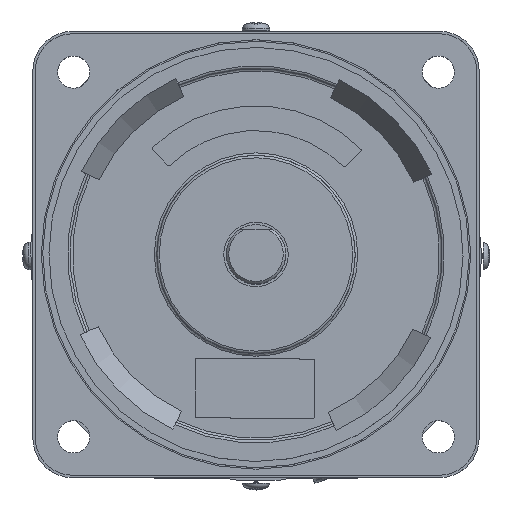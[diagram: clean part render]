
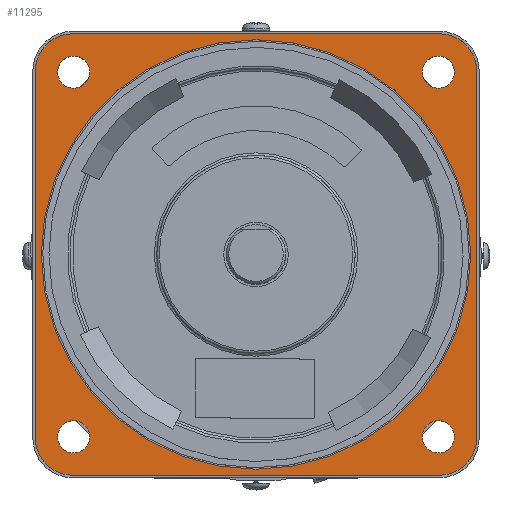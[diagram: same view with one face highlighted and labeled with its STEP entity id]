
A CAD part, top view. The second image highlights one B-rep face of the part: STEP entity #11295.
In plain terms, the highlighted planar face has unit normal (0, 0, 1).
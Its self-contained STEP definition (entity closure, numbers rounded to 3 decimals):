
#588=FACE_BOUND('',#1620,.T.);
#589=FACE_BOUND('',#1621,.T.);
#590=FACE_BOUND('',#1622,.T.);
#591=FACE_BOUND('',#1623,.T.);
#592=FACE_BOUND('',#1624,.T.);
#714=PLANE('',#11973);
#972=FACE_OUTER_BOUND('',#1619,.T.);
#1619=EDGE_LOOP('',(#7229,#7230,#7231,#7232,#7233,#7234,#7235,#7236));
#1620=EDGE_LOOP('',(#7237));
#1621=EDGE_LOOP('',(#7238));
#1622=EDGE_LOOP('',(#7239));
#1623=EDGE_LOOP('',(#7240));
#1624=EDGE_LOOP('',(#7241));
#2440=CIRCLE('',#11974,7.5);
#2441=CIRCLE('',#11975,7.5);
#2442=CIRCLE('',#11976,7.5);
#2443=CIRCLE('',#11977,7.5);
#2444=CIRCLE('',#11978,3.25);
#2445=CIRCLE('',#11979,3.25);
#2446=CIRCLE('',#11980,43.3);
#2447=CIRCLE('',#11981,3.25);
#2448=CIRCLE('',#11982,3.25);
#3145=LINE('',#16692,#3795);
#3146=LINE('',#16696,#3796);
#3147=LINE('',#16700,#3797);
#3148=LINE('',#16703,#3798);
#3795=VECTOR('',#13333,74.);
#3796=VECTOR('',#13336,74.);
#3797=VECTOR('',#13339,74.);
#3798=VECTOR('',#13342,74.);
#4457=VERTEX_POINT('',#16688);
#4458=VERTEX_POINT('',#16689);
#4459=VERTEX_POINT('',#16691);
#4460=VERTEX_POINT('',#16693);
#4461=VERTEX_POINT('',#16695);
#4462=VERTEX_POINT('',#16697);
#4463=VERTEX_POINT('',#16699);
#4464=VERTEX_POINT('',#16701);
#4465=VERTEX_POINT('',#16704);
#4466=VERTEX_POINT('',#16706);
#4467=VERTEX_POINT('',#16708);
#4468=VERTEX_POINT('',#16710);
#4469=VERTEX_POINT('',#16712);
#5556=EDGE_CURVE('',#4457,#4458,#2440,.T.);
#5557=EDGE_CURVE('',#4459,#4457,#3145,.T.);
#5558=EDGE_CURVE('',#4460,#4459,#2441,.T.);
#5559=EDGE_CURVE('',#4461,#4460,#3146,.T.);
#5560=EDGE_CURVE('',#4462,#4461,#2442,.T.);
#5561=EDGE_CURVE('',#4463,#4462,#3147,.T.);
#5562=EDGE_CURVE('',#4464,#4463,#2443,.T.);
#5563=EDGE_CURVE('',#4458,#4464,#3148,.T.);
#5564=EDGE_CURVE('',#4465,#4465,#2444,.F.);
#5565=EDGE_CURVE('',#4466,#4466,#2445,.F.);
#5566=EDGE_CURVE('',#4467,#4467,#2446,.T.);
#5567=EDGE_CURVE('',#4468,#4468,#2447,.F.);
#5568=EDGE_CURVE('',#4469,#4469,#2448,.F.);
#7229=ORIENTED_EDGE('',*,*,#5556,.F.);
#7230=ORIENTED_EDGE('',*,*,#5557,.F.);
#7231=ORIENTED_EDGE('',*,*,#5558,.F.);
#7232=ORIENTED_EDGE('',*,*,#5559,.F.);
#7233=ORIENTED_EDGE('',*,*,#5560,.F.);
#7234=ORIENTED_EDGE('',*,*,#5561,.F.);
#7235=ORIENTED_EDGE('',*,*,#5562,.F.);
#7236=ORIENTED_EDGE('',*,*,#5563,.F.);
#7237=ORIENTED_EDGE('',*,*,#5564,.F.);
#7238=ORIENTED_EDGE('',*,*,#5565,.F.);
#7239=ORIENTED_EDGE('',*,*,#5566,.T.);
#7240=ORIENTED_EDGE('',*,*,#5567,.F.);
#7241=ORIENTED_EDGE('',*,*,#5568,.F.);
#11295=ADVANCED_FACE('',(#972,#588,#589,#590,#591,#592),#714,.T.);
#11973=AXIS2_PLACEMENT_3D('',#16687,#13329,#13330);
#11974=AXIS2_PLACEMENT_3D('',#16690,#13331,#13332);
#11975=AXIS2_PLACEMENT_3D('',#16694,#13334,#13335);
#11976=AXIS2_PLACEMENT_3D('',#16698,#13337,#13338);
#11977=AXIS2_PLACEMENT_3D('',#16702,#13340,#13341);
#11978=AXIS2_PLACEMENT_3D('',#16705,#13343,#13344);
#11979=AXIS2_PLACEMENT_3D('',#16707,#13345,#13346);
#11980=AXIS2_PLACEMENT_3D('',#16709,#13347,#13348);
#11981=AXIS2_PLACEMENT_3D('',#16711,#13349,#13350);
#11982=AXIS2_PLACEMENT_3D('',#16713,#13351,#13352);
#13329=DIRECTION('center_axis',(0.,0.,1.));
#13330=DIRECTION('ref_axis',(1.,0.,0.));
#13331=DIRECTION('center_axis',(0.,0.,-1.));
#13332=DIRECTION('ref_axis',(0.,-1.,0.));
#13333=DIRECTION('',(0.,1.,0.));
#13334=DIRECTION('center_axis',(0.,0.,-1.));
#13335=DIRECTION('ref_axis',(1.,0.,0.));
#13336=DIRECTION('',(-1.,0.,0.));
#13337=DIRECTION('center_axis',(0.,0.,-1.));
#13338=DIRECTION('ref_axis',(0.,1.,0.));
#13339=DIRECTION('',(0.,-1.,0.));
#13340=DIRECTION('center_axis',(0.,0.,-1.));
#13341=DIRECTION('ref_axis',(-1.,0.,0.));
#13342=DIRECTION('',(1.,0.,0.));
#13343=DIRECTION('center_axis',(0.,0.,-1.));
#13344=DIRECTION('ref_axis',(0.,1.,0.));
#13345=DIRECTION('center_axis',(0.,0.,-1.));
#13346=DIRECTION('ref_axis',(-1.,0.,0.));
#13347=DIRECTION('center_axis',(0.,0.,-1.));
#13348=DIRECTION('ref_axis',(0.,1.,0.));
#13349=DIRECTION('center_axis',(0.,0.,-1.));
#13350=DIRECTION('ref_axis',(0.,-1.,0.));
#13351=DIRECTION('center_axis',(0.,0.,-1.));
#13352=DIRECTION('ref_axis',(1.,0.,0.));
#16687=CARTESIAN_POINT('Origin',(0.355,5.246,-6.569));
#16688=CARTESIAN_POINT('',(-44.145,42.246,-6.569));
#16689=CARTESIAN_POINT('',(-36.645,49.746,-6.569));
#16690=CARTESIAN_POINT('Origin',(-36.645,42.246,-6.569));
#16691=CARTESIAN_POINT('',(-44.145,-31.754,-6.569));
#16692=CARTESIAN_POINT('',(-44.145,-31.754,-6.569));
#16693=CARTESIAN_POINT('',(-36.645,-39.254,-6.569));
#16694=CARTESIAN_POINT('Origin',(-36.645,-31.754,-6.569));
#16695=CARTESIAN_POINT('',(37.355,-39.254,-6.569));
#16696=CARTESIAN_POINT('',(37.355,-39.254,-6.569));
#16697=CARTESIAN_POINT('',(44.855,-31.754,-6.569));
#16698=CARTESIAN_POINT('Origin',(37.355,-31.754,-6.569));
#16699=CARTESIAN_POINT('',(44.855,42.246,-6.569));
#16700=CARTESIAN_POINT('',(44.855,42.246,-6.569));
#16701=CARTESIAN_POINT('',(37.355,49.746,-6.569));
#16702=CARTESIAN_POINT('Origin',(37.355,42.246,-6.569));
#16703=CARTESIAN_POINT('',(-36.645,49.746,-6.569));
#16704=CARTESIAN_POINT('',(37.124,-34.774,-6.569));
#16705=CARTESIAN_POINT('Origin',(37.124,-31.524,-6.569));
#16706=CARTESIAN_POINT('',(40.374,42.015,-6.569));
#16707=CARTESIAN_POINT('Origin',(37.124,42.015,-6.569));
#16708=CARTESIAN_POINT('',(43.655,5.246,-6.569));
#16709=CARTESIAN_POINT('Origin',(0.355,5.246,-6.569));
#16710=CARTESIAN_POINT('',(-36.415,45.265,-6.569));
#16711=CARTESIAN_POINT('Origin',(-36.415,42.015,-6.569));
#16712=CARTESIAN_POINT('',(-39.665,-31.524,-6.569));
#16713=CARTESIAN_POINT('Origin',(-36.415,-31.524,-6.569));
